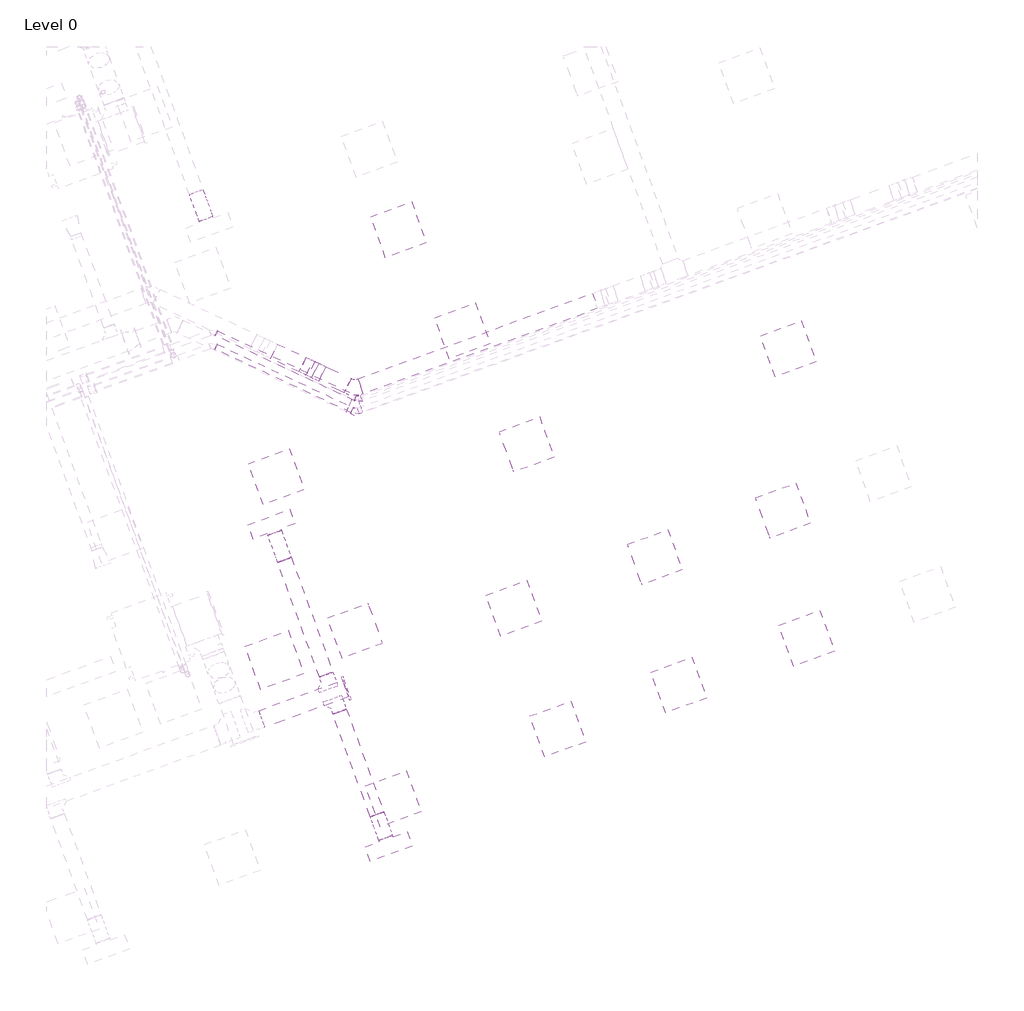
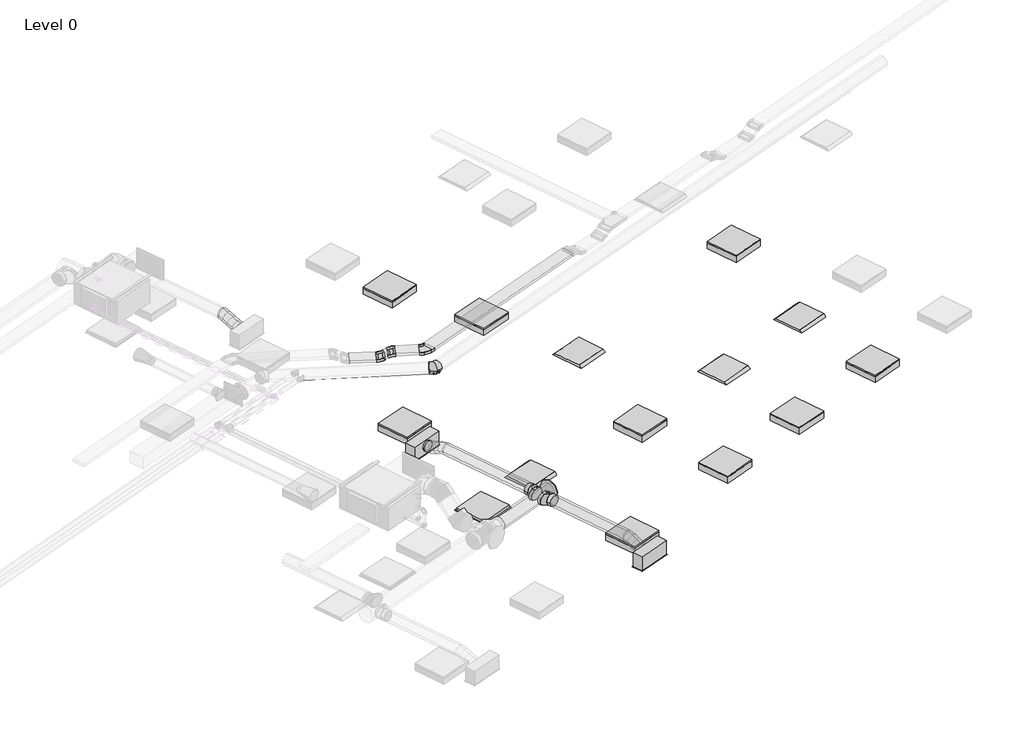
# One storey, part 27 of 34: 13 light fixtures, 6 duct segments, 4 cable carrier segments, 4 duct fittings, 3 air terminals, 3 cable carrier fittings, 2 pipe fittings, 2 pipe segments.
"""IFC4 building model written with IfcOpenShell, lengths in millimetres."""

from ifc_helpers import new_model, si_unit, point, frame, frame_2d, origin, place, context, project, spatial, polyline, circle_curve, ellipse_curve, trimmed, segment, composite_curve, outline, extrude, transform, mapped, element, save
from ifc_brep_helpers import plane_surface, cylinder_surface, advanced_brep
from components import return_grille_rectangular_hosted_standard_7b12617c, supply_diffuser_with_plenum_linear_slot_hosted_7a86b773, cable_tray_horizontal_bend_standard_ea848225, cable_tray_vertical_inside_bend_standard_9a66f55b, cable_tray_vertical_outside_bend_standard_4df2047e, dw144_round_blank_end_standard_9aa061e7, dw144_round_segmented_bend_slip_joint_standard_55afcd91, dw144_round_shoe_branch_slip_joint1_standard_2_559552f4, light_fixture_b730b5ca, troffer_light_2x2_parabolic_2_x2_2_lamp_120v_6a063ff3, elbow_threaded_gmi_standard_9261818c

model = new_model("IFC4")

# Units and contexts
model_context = context("Model", 3, world=origin())
ifc_project = project(units=[si_unit("LENGTHUNIT", "METRE", prefix="MILLI")], contexts=[model_context])

# Site, building, storey
site = spatial("IfcSite", under=ifc_project)
building = spatial("IfcBuilding", under=site)
storey = spatial("IfcBuildingStorey", under=building, Name="Level 0", Elevation=0.0)

# Air terminals
placement = place(None, origin())
return_grille_rectangular_hosted_standard_shape = return_grille_rectangular_hosted_standard_7b12617c(model_context)
element("IfcAirTerminal", 1, ObjectType="Return Grille - Rectangular - Hosted : Standard", at=placement, inside=storey, context=model_context, shape_type="MappedRepresentation", body=[
    mapped(return_grille_rectangular_hosted_standard_shape, transform((48062.9940494, 9235.5167351, 2800.0), x_axis=(0.939692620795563, 0.34202014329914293, 0.0), y_axis=(0.34202014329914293, -0.939692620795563, 0.0), z_axis=(0.0, 0.0, -1.0))),
])
supply_diffuser_with_plenum_linear_slot_hosted_shape = supply_diffuser_with_plenum_linear_slot_hosted_7a86b773(model_context)
element("IfcAirTerminal", 2, ObjectType="Supply Diffuser with Plenum - Linear Slot - Hosted : 24\" x 8\"-200 In Inlet  4-Slot", at=placement, inside=storey, context=model_context, shape_type="MappedRepresentation", body=[
    mapped(supply_diffuser_with_plenum_linear_slot_hosted_shape, transform((49663.8644548, 6625.652594, 2800.0), x_axis=(-0.9396926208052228, -0.34202014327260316, 0.0), y_axis=(-0.34202014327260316, 0.9396926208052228, 0.0), z_axis=(0.0, 0.0, -1.0))),
])
element("IfcAirTerminal", 3, ObjectType="Supply Diffuser with Plenum - Linear Slot - Hosted : 24\" x 8\"-200 In Inlet  4-Slot", at=placement, inside=storey, context=model_context, shape_type="MappedRepresentation", body=[
    mapped(supply_diffuser_with_plenum_linear_slot_hosted_shape, transform((48022.1677671, 11136.1771739, 2800.0), x_axis=(0.939692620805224, 0.34202014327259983, 0.0), y_axis=(0.34202014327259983, -0.939692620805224, 0.0), z_axis=(0.0, 0.0, -1.0))),
])

# Cable carrier fittings
cable_tray_horizontal_bend_standard_shape = cable_tray_horizontal_bend_standard_ea848225(model_context)
element("IfcCableCarrierFitting", 4, ObjectType="Cable Tray Horizontal Bend : Standard", at=placement, inside=storey, context=model_context, shape_type="MappedRepresentation", body=[
    mapped(cable_tray_horizontal_bend_standard_shape, transform((49178.5883036, 13033.9843438, 3248.9627355), x_axis=(0.9063077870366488, -0.422618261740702, 0.0), y_axis=(0.422618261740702, 0.9063077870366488, 0.0), z_axis=(0.0, 0.0, 1.0))),
])
cable_tray_vertical_inside_bend_standard_shape = cable_tray_vertical_inside_bend_standard_9a66f55b(model_context)
element("IfcCableCarrierFitting", 5, ObjectType="Cable Tray Vertical Inside Bend : Standard", at=placement, inside=storey, context=model_context, shape_type="MappedRepresentation", body=[
    mapped(cable_tray_vertical_inside_bend_standard_shape, transform((48516.9257607, 13342.5226547, 3148.9627355), x_axis=(0.9063077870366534, -0.42261826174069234, 0.0), y_axis=(0.0, 0.0, 1.0000000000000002), z_axis=(-0.42261826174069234, -0.9063077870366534, 0.0))),
])
cable_tray_vertical_outside_bend_standard_shape = cable_tray_vertical_outside_bend_standard_4df2047e(model_context)
element("IfcCableCarrierFitting", 6, ObjectType="Cable Tray Vertical Outside Bend : Standard", at=placement, inside=storey, context=model_context, shape_type="MappedRepresentation", body=[
    mapped(cable_tray_vertical_outside_bend_standard_shape, transform((48673.9028741, 13269.3230245, 3248.9627355), x_axis=(-0.9063077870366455, 0.42261826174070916, 0.0), y_axis=(0.0, 0.0, -1.0), z_axis=(-0.42261826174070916, -0.9063077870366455, 0.0))),
])

# Cable carrier segments
element("IfcCableCarrierSegment", 7, ObjectType="Perforated Cable Tray", at=placement, inside=storey, context=model_context, shape_type="SweptSolid", body=[
    extrude(outline(polyline([(48687.0694296, 13139.053343), (48782.1585385, 13342.9725951), (49136.974176, 13177.519346), (49041.8850671, 12973.600094), (48687.0694296, 13139.053343)])), frame((0.0, 0.0, 3223.9627355), z_axis=(0.0, 0.0, 1.0), x_axis=(1.0, 0.0, 0.0)), (0.0, 0.0, 1.0), 50.0),
])
element("IfcCableCarrierSegment", 8, ObjectType="Perforated Cable Tray", at=placement, inside=storey, context=model_context, shape_type="SweptSolid", body=[
    extrude(outline(polyline([(48010.1156409, 13454.7220789), (48105.2047498, 13658.6413309), (48503.7592052, 13472.7923362), (48408.6700963, 13268.8730841), (48010.1156409, 13454.7220789)])), frame((0.0, 0.0, 3123.9627355), z_axis=(0.0, 0.0, 1.0), x_axis=(1.0, 0.0, 0.0)), (0.0, 0.0, 1.0), 50.0),
])
element("IfcCableCarrierSegment", 9, ObjectType="Perforated Cable Tray", at=placement, inside=storey, context=model_context, shape_type="SweptSolid", body=[
    extrude(outline(polyline([(0.0, -225.0), (0.0, 0.0), (66.0254038, 0.0), (66.0254038, -225.0), (0.0, -225.0)])), frame((48585.1098035, 13186.5978974, 3193.8184513), z_axis=(-0.4531538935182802, 0.21130913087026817, 0.8660254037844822), x_axis=(-0.7848855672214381, 0.3659981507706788, -0.49999999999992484)), (0.0, 0.0, 1.0), 50.0),
])
element("IfcCableCarrierSegment", 10, ObjectType="Perforated Cable Tray", at=placement, inside=storey, context=model_context, shape_type="SweptSolid", body=[
    extrude(outline(polyline([(49309.5085089, 12961.9154021), (49232.5539766, 13173.3462418), (52512.3328011, 14367.0881089), (52589.2873334, 14155.6572692), (49309.5085089, 12961.9154021)])), frame((0.0, 0.0, 3223.9627355), z_axis=(0.0, 0.0, 1.0), x_axis=(1.0, 0.0, 0.0)), (0.0, 0.0, 1.0), 50.0),
])

# Duct fittings
dw144_round_blank_end_standard_shape = dw144_round_blank_end_standard_9aa061e7(model_context)
element("IfcDuctFitting", 11, ObjectType="DW144 Round Blank End : Standard", at=placement, inside=storey, context=model_context, shape_type="MappedRepresentation", body=[
    mapped(dw144_round_blank_end_standard_shape, transform((49058.6014923, 8836.976268, 3072.2088531), x_axis=(0.9396926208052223, 0.3420201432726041, 0.0), y_axis=(-0.3420201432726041, 0.9396926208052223, 0.0), z_axis=(0.0, 0.0, 1.0))),
])
dw144_round_segmented_bend_slip_joint_standard_shape = dw144_round_segmented_bend_slip_joint_standard_55afcd91(model_context)
element("IfcDuctFitting", 12, ObjectType="DW144 Round Segmented Bend - Slip Joint : Standard", at=placement, inside=storey, context=model_context, shape_type="MappedRepresentation", body=[
    mapped(dw144_round_segmented_bend_slip_joint_standard_shape, transform((49186.9042916, 12762.9479037, 3050.0), x_axis=(0.9063077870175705, -0.42261826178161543, 0.0), y_axis=(0.42261826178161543, 0.9063077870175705, 0.0), z_axis=(0.0, 0.0, 1.0))),
])
dw144_round_shoe_branch_slip_joint1_standard_2_shape = dw144_round_shoe_branch_slip_joint1_standard_2_559552f4(model_context)
element("IfcDuctFitting", 13, ObjectType="DW144 Round Shoe Branch - Slip Joint1 : Standard 2", at=placement, inside=storey, context=model_context, shape_type="MappedRepresentation", body=[
    mapped(dw144_round_shoe_branch_slip_joint1_standard_2_shape, transform((48925.1089268, 8655.3667261, 3072.2088531), x_axis=(0.34202014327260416, -0.9396926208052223, 0.0), y_axis=(-0.9396926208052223, -0.34202014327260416, 0.0), z_axis=(0.0, 0.0, -1.0))),
])
element("IfcDuctFitting", 14, ObjectType="DW144 Round Shoe Branch - Slip Joint1 : Standard 2", at=placement, inside=storey, context=model_context, shape_type="MappedRepresentation", body=[
    mapped(dw144_round_shoe_branch_slip_joint1_standard_2_shape, transform((48839.603891, 8890.2898813, 3072.2088531), x_axis=(-0.34202014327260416, 0.9396926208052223, 0.0), y_axis=(-0.9396926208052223, -0.34202014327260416, 0.0), z_axis=(0.0, 0.0, 1.0))),
])

# Duct segments
element("IfcDuctSegment", 15, ObjectType="DW144 Segmented Bend / Shoe Branch", at=placement, inside=storey, context=model_context, shape_type="SweptSolid", body=[
    extrude(outline(composite_curve([segment(trimmed(circle_curve(frame_2d((0.0, 125.0)), 125.0), [point((125.0, 125.0))], [point((0.0, 0.0))], False, "CARTESIAN"), True, "CONTINUOUS"), segment(trimmed(circle_curve(frame_2d((0.0, 125.0)), 125.0), [point((0.0, 0.0))], [point((-125.0, 125.0))], False, "CARTESIAN"), True, "CONTINUOUS"), segment(trimmed(circle_curve(frame_2d((0.0, 125.0)), 125.0), [point((-125.0, 125.0))], [point((0.0, 250.0))], False, "CARTESIAN"), True, "CONTINUOUS"), segment(trimmed(circle_curve(frame_2d((0.0, 125.0)), 125.0), [point((0.0, 250.0))], [point((125.0, 125.0))], False, "CARTESIAN"), True, "CONTINUOUS")], self_intersect=False)), frame((47888.1158529, 8410.9543357, 3197.2088531), z_axis=(0.9396926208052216, 0.34202014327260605, 0.0), x_axis=(0.34202014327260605, -0.9396926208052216, 0.0)), (0.0, 0.0, 1.0), 1245.6048004),
])
element("IfcDuctSegment", 16, ObjectType="DW144 Segmented Bend / Shoe Branch", at=placement, inside=storey, context=model_context, shape_type="SweptSolid", body=[
    extrude(outline(composite_curve([segment(trimmed(circle_curve(frame_2d((0.0, -100.0)), 100.0), [point((-100.0, -100.0))], [point((0.0, 0.0))], False, "CARTESIAN"), True, "CONTINUOUS"), segment(trimmed(circle_curve(frame_2d((0.0, -100.0)), 100.0), [point((0.0, 0.0))], [point((99.9999999, -100.0))], False, "CARTESIAN"), True, "CONTINUOUS"), segment(trimmed(circle_curve(frame_2d((0.0, -100.0)), 100.0), [point((99.9999999, -100.0))], [point((0.0, -200.0))], False, "CARTESIAN"), True, "CONTINUOUS"), segment(trimmed(circle_curve(frame_2d((0.0, -100.0)), 100.0), [point((0.0, -200.0))], [point((-100.0, -100.0))], False, "CARTESIAN"), True, "CONTINUOUS")], self_intersect=False)), frame((49500.2755983, 7075.1092836, 2972.2088531), z_axis=(-0.3420201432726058, 0.9396926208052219, 0.0), x_axis=(0.9396926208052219, 0.3420201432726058, 0.0)), (0.0, 0.0, 1.0), 1531.674845),
])
element("IfcDuctSegment", 17, ObjectType="DW144 Segmented Bend / Shoe Branch", at=placement, inside=storey, context=model_context, shape_type="SweptSolid", body=[
    extrude(outline(composite_curve([segment(trimmed(circle_curve(frame_2d((0.0, 100.0)), 100.0), [point((100.0, 100.0))], [point((0.0, 0.0))], False, "CARTESIAN"), True, "CONTINUOUS"), segment(trimmed(circle_curve(frame_2d((0.0, 100.0)), 100.0), [point((0.0, 0.0))], [point((-100.0, 100.0))], False, "CARTESIAN"), True, "CONTINUOUS"), segment(trimmed(circle_curve(frame_2d((0.0, 100.0)), 100.0), [point((-100.0, 100.0))], [point((0.0, 200.0))], False, "CARTESIAN"), True, "CONTINUOUS"), segment(trimmed(circle_curve(frame_2d((0.0, 100.0)), 100.0), [point((0.0, 200.0))], [point((100.0, 100.0))], False, "CARTESIAN"), True, "CONTINUOUS")], self_intersect=False)), frame((48788.3008695, 9031.2437744, 3172.2088531), z_axis=(-0.34202014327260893, 0.9396926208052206, 0.0), x_axis=(0.9396926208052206, 0.34202014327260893, 0.0)), (0.0, 0.0, 1.0), 1708.325155),
])
element("IfcDuctSegment", 18, ObjectType="Flex - Round", at=placement, inside=storey, context=model_context, shape_type="AdvancedBrep", body=[
    advanced_brep(
    [(47061.6165117, 15821.9331388, 3072.2088531), (46967.6472496, 15787.7311245, 2972.2088531), (46873.6779876, 15753.5291101, 3072.2088531), (46967.6472496, 15787.7311245, 3172.2088531), (47067.647805, 15805.3622967, 3072.2088531), (46970.0224122, 15781.2054191, 2972.2088531), (46879.7092808, 15736.958268, 3072.2088531), (46977.3346737, 15761.1151457, 3172.2088531), (47200.0314417, 15441.6412443, 2954.4), (47106.0621796, 15407.4392299, 3054.4), (47012.0929175, 15373.2372156, 2954.4), (47106.0621796, 15407.4392299, 2854.4), (47096.7588813, 15725.3802719, 3053.8012198), (46992.657883, 15719.014974, 2957.8959008), (46908.8203572, 15656.9762432, 3053.8012198), (47012.9213554, 15663.3415411, 3149.7065388), (47130.8239767, 15631.7871915, 3013.3044266), (47023.9724625, 15632.9788739, 2920.6689376), (46942.8854525, 15563.3831629, 3013.3044266), (47049.7369667, 15562.1914805, 3105.9399155), (47164.8890721, 15538.1941112, 2972.8076333), (47060.7880738, 15531.8288133, 2876.9023143), (46976.9505479, 15469.7900825, 2972.8076333), (47081.0515462, 15476.1553804, 3068.7129523), (47194.0001484, 15458.2120864, 2954.4), (47096.3747556, 15434.0552087, 2854.4), (47006.0616242, 15389.8080577, 2954.4), (47103.6870171, 15413.9649353, 3054.4)],
    [
        (0, 1, circle_curve(frame((46967.6472496, 15787.7311245, 3072.2088531), z_axis=(-0.3420201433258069, 0.9396926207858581, 0.0), x_axis=(0.9396926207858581, 0.3420201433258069, 0.0)), 100.0)),
        (1, 2, circle_curve(frame((46967.6472496, 15787.7311245, 3072.2088531), z_axis=(-0.3420201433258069, 0.9396926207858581, 0.0), x_axis=(0.9396926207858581, 0.3420201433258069, 0.0)), 100.0)),
        (2, 3, circle_curve(frame((46967.6472496, 15787.7311245, 3072.2088531), z_axis=(-0.3420201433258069, 0.9396926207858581, 0.0), x_axis=(0.9396926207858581, 0.3420201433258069, 0.0)), 100.0)),
        (3, 0, circle_curve(frame((46967.6472496, 15787.7311245, 3072.2088531), z_axis=(-0.3420201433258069, 0.9396926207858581, 0.0), x_axis=(0.9396926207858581, 0.3420201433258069, 0.0)), 100.0)),
        (0, 4),
        (4, 5, ellipse_curve(frame((46973.6785429, 15771.1602824, 3072.2088531), z_axis=(-0.3400825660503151, 0.934369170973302, 0.10629252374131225), x_axis=(-0.03635418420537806, 0.09988230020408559, -0.9943349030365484)), 100.5697373, 100.0)),
        (5, 1),
        (5, 6, ellipse_curve(frame((46973.6785429, 15771.1602824, 3072.2088531), z_axis=(-0.3400825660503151, 0.934369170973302, 0.10629252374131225), x_axis=(-0.03635418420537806, 0.09988230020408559, -0.9943349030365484)), 100.5697373, 100.0)),
        (6, 2),
        (6, 7, ellipse_curve(frame((46973.6785429, 15771.1602824, 3072.2088531), z_axis=(-0.3400825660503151, 0.934369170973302, 0.10629252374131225), x_axis=(-0.03635418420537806, 0.09988230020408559, -0.9943349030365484)), 100.5697373, 100.0)),
        (7, 3),
        (7, 4, ellipse_curve(frame((46973.6785429, 15771.1602824, 3072.2088531), z_axis=(-0.3400825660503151, 0.934369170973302, 0.10629252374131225), x_axis=(-0.03635418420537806, 0.09988230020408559, -0.9943349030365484)), 100.5697373, 100.0)),
        (8, 9, circle_curve(frame((47106.0621796, 15407.4392299, 2954.4), z_axis=(0.3420201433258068, -0.9396926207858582, 0.0), x_axis=(0.9396926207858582, 0.3420201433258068, 0.0)), 100.0)),
        (9, 10, circle_curve(frame((47106.0621796, 15407.4392299, 2954.4), z_axis=(0.3420201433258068, -0.9396926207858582, 0.0), x_axis=(0.9396926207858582, 0.3420201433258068, 0.0)), 100.0)),
        (10, 11, circle_curve(frame((47106.0621796, 15407.4392299, 2954.4), z_axis=(0.3420201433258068, -0.9396926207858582, 0.0), x_axis=(0.9396926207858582, 0.3420201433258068, 0.0)), 100.0)),
        (11, 8, circle_curve(frame((47106.0621796, 15407.4392299, 2954.4), z_axis=(0.3420201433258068, -0.9396926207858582, 0.0), x_axis=(0.9396926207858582, 0.3420201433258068, 0.0)), 100.0)),
        (4, 12),
        (12, 13, ellipse_curve(frame((47002.7896192, 15691.1782575, 3053.8012198), z_axis=(-0.32678640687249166, 0.8978382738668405, 0.2951221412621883), x_axis=(-0.10093771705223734, 0.2773240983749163, -0.9554595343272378)), 100.3761181, 100.0)),
        (13, 5),
        (13, 14, ellipse_curve(frame((47002.7896192, 15691.1782575, 3053.8012198), z_axis=(-0.32678640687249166, 0.8978382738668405, 0.2951221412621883), x_axis=(-0.10093771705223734, 0.2773240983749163, -0.9554595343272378)), 100.3761181, 100.0)),
        (14, 6),
        (14, 15, ellipse_curve(frame((47002.7896192, 15691.1782575, 3053.8012198), z_axis=(-0.32678640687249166, 0.8978382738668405, 0.2951221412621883), x_axis=(-0.10093771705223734, 0.2773240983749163, -0.9554595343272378)), 100.3761181, 100.0)),
        (15, 7),
        (15, 12, ellipse_curve(frame((47002.7896192, 15691.1782575, 3053.8012198), z_axis=(-0.32678640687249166, 0.8978382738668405, 0.2951221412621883), x_axis=(-0.10093771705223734, 0.2773240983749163, -0.9554595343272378)), 100.3761181, 100.0)),
        (12, 16),
        (16, 17, circle_curve(frame((47036.8547146, 15597.5851772, 3013.3044266), z_axis=(-0.31683203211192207, 0.870488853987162, 0.3766518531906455), x_axis=(0.9396926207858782, 0.3420201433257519, 0.0)), 100.0)),
        (17, 13),
        (17, 18, circle_curve(frame((47036.8547146, 15597.5851772, 3013.3044266), z_axis=(-0.31683203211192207, 0.870488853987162, 0.3766518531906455), x_axis=(0.9396926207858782, 0.3420201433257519, 0.0)), 100.0)),
        (18, 14),
        (18, 19, circle_curve(frame((47036.8547146, 15597.5851772, 3013.3044266), z_axis=(-0.31683203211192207, 0.870488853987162, 0.3766518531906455), x_axis=(0.9396926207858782, 0.3420201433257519, 0.0)), 100.0)),
        (19, 15),
        (19, 16, circle_curve(frame((47036.8547146, 15597.5851772, 3013.3044266), z_axis=(-0.31683203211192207, 0.870488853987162, 0.3766518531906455), x_axis=(0.9396926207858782, 0.3420201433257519, 0.0)), 100.0)),
        (16, 20),
        (20, 21, ellipse_curve(frame((47070.91981, 15503.9920969, 2972.8076333), z_axis=(-0.3267864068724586, 0.8978382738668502, 0.2951221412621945), x_axis=(0.10093771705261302, -0.2773240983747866, 0.9554595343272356)), 100.3761181, 100.0)),
        (21, 17),
        (21, 22, ellipse_curve(frame((47070.91981, 15503.9920969, 2972.8076333), z_axis=(-0.3267864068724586, 0.8978382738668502, 0.2951221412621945), x_axis=(0.10093771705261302, -0.2773240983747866, 0.9554595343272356)), 100.3761181, 100.0)),
        (22, 18),
        (22, 23, ellipse_curve(frame((47070.91981, 15503.9920969, 2972.8076333), z_axis=(-0.3267864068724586, 0.8978382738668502, 0.2951221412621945), x_axis=(0.10093771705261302, -0.2773240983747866, 0.9554595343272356)), 100.3761181, 100.0)),
        (23, 19),
        (23, 20, ellipse_curve(frame((47070.91981, 15503.9920969, 2972.8076333), z_axis=(-0.3267864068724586, 0.8978382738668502, 0.2951221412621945), x_axis=(0.10093771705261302, -0.2773240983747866, 0.9554595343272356)), 100.3761181, 100.0)),
        (20, 24),
        (24, 25, ellipse_curve(frame((47100.0308863, 15424.010072, 2954.4), z_axis=(-0.34008256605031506, 0.934369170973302, 0.10629252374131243), x_axis=(0.03635418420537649, -0.09988230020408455, 0.9943349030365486)), 100.5697373, 100.0)),
        (25, 21),
        (25, 26, ellipse_curve(frame((47100.0308863, 15424.010072, 2954.4), z_axis=(-0.34008256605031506, 0.934369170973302, 0.10629252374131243), x_axis=(0.03635418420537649, -0.09988230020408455, 0.9943349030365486)), 100.5697373, 100.0)),
        (26, 22),
        (26, 27, ellipse_curve(frame((47100.0308863, 15424.010072, 2954.4), z_axis=(-0.34008256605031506, 0.934369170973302, 0.10629252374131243), x_axis=(0.03635418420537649, -0.09988230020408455, 0.9943349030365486)), 100.5697373, 100.0)),
        (27, 23),
        (27, 24, ellipse_curve(frame((47100.0308863, 15424.010072, 2954.4), z_axis=(-0.34008256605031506, 0.934369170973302, 0.10629252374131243), x_axis=(0.03635418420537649, -0.09988230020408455, 0.9943349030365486)), 100.5697373, 100.0)),
        (24, 8),
        (11, 25),
        (10, 26),
        (9, 27),
    ],
    [
        plane_surface(frame((46967.6472496, 15787.7311245, 2972.2088531), z_axis=(-0.34202014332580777, 0.9396926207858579, 0.0), x_axis=(0.9396926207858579, 0.34202014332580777, 0.0))),
        cylinder_surface(frame((46967.6472496, 15787.7311245, 3072.2088531), z_axis=(-0.3420201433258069, 0.9396926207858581, 0.0), x_axis=(0.9396926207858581, 0.3420201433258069, 0.0)), 100.0),
        plane_surface(frame((47106.0621796, 15407.4392299, 2854.4), z_axis=(0.34202014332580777, -0.9396926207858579, 0.0), x_axis=(0.9396926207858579, 0.34202014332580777, 0.0))),
        cylinder_surface(frame((46973.6785429, 15771.1602824, 3072.2088531), z_axis=(-0.3342917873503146, 0.9184591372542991, 0.21138073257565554), x_axis=(0.9396926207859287, 0.3420201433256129, 0.0)), 100.0),
        cylinder_surface(frame((47002.7896192, 15691.1782575, 3053.8012198), z_axis=(-0.31683203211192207, 0.870488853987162, 0.3766518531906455), x_axis=(0.9396926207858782, 0.3420201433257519, 0.0)), 100.0),
        cylinder_surface(frame((47036.8547146, 15597.5851772, 3013.3044266), z_axis=(-0.3168320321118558, 0.8704888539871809, 0.3766518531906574), x_axis=(0.9396926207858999, 0.342020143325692, 0.0)), 100.0),
        cylinder_surface(frame((47070.91981, 15503.9920969, 2972.8076333), z_axis=(-0.3342917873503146, 0.918459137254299, 0.2113807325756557), x_axis=(0.9396926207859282, 0.34202014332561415, 0.0)), 100.0),
        cylinder_surface(frame((47100.0308863, 15424.010072, 2954.4), z_axis=(-0.3420201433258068, 0.9396926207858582, 0.0), x_axis=(0.9396926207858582, 0.3420201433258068, 0.0)), 100.0),
    ],
    [
        (0, [[1, 2, 3, 4]]),
        (1, [[-1, 5, 6, 7]]),
        (1, [[-2, -7, 8, 9]]),
        (1, [[-3, -9, 10, 11]]),
        (1, [[-4, -11, 12, -5]]),
        (2, [[13, 14, 15, 16]]),
        (3, [[-6, 17, 18, 19]]),
        (3, [[-8, -19, 20, 21]]),
        (3, [[-10, -21, 22, 23]]),
        (3, [[-12, -23, 24, -17]]),
        (4, [[-18, 25, 26, 27]]),
        (4, [[-20, -27, 28, 29]]),
        (4, [[-22, -29, 30, 31]]),
        (4, [[-24, -31, 32, -25]]),
        (5, [[-26, 33, 34, 35]]),
        (5, [[-28, -35, 36, 37]]),
        (5, [[-30, -37, 38, 39]]),
        (5, [[-32, -39, 40, -33]]),
        (6, [[-34, 41, 42, 43]]),
        (6, [[-36, -43, 44, 45]]),
        (6, [[-38, -45, 46, 47]]),
        (6, [[-40, -47, 48, -41]]),
        (7, [[-42, 49, -16, 50]]),
        (7, [[-44, -50, -15, 51]]),
        (7, [[-46, -51, -14, 52]]),
        (7, [[-48, -52, -13, -49]]),
    ],
),
])
element("IfcDuctSegment", 19, ObjectType="Flex - Round", at=placement, inside=storey, context=model_context, shape_type="AdvancedBrep", body=[
    advanced_brep(
    [(49594.2448603, 7109.3112979, 3072.2088531), (49500.2755983, 7075.1092836, 2972.2088531), (49406.3063362, 7040.9072693, 3072.2088531), (49500.2755983, 7075.1092836, 3172.2088531), (49601.1255889, 7090.4066517, 3072.2088531), (49502.7043776, 7068.4362673, 2972.2088531), (49413.1870647, 7022.002623, 3072.2088531), (49511.608276, 7043.9730074, 3172.2088531), (49714.3971587, 6779.1955712, 2954.4), (49620.4278967, 6744.9935568, 3054.4), (49526.4586346, 6710.7915425, 2954.4), (49620.4278967, 6744.9935568, 2854.4), (49624.8994494, 7025.0885067, 3053.8012198), (49519.1724256, 7023.1906771, 2959.4579669), (49436.9609252, 6956.684478, 3053.8012198), (49542.687949, 6958.5823076, 3148.1444727), (49654.3210095, 6944.2534345, 3013.3044266), (49545.7840857, 6950.075742, 2922.8288116), (49466.3824854, 6875.8494059, 3013.3044266), (49574.9194092, 6870.0270985, 3103.7800415), (49683.7425697, 6863.4183624, 2972.8076333), (49578.0155459, 6861.5205329, 2878.4643804), (49495.8040455, 6795.0143338, 2972.8076333), (49601.5310693, 6796.9121633, 3067.1508862), (49707.5164302, 6798.1002174, 2954.4), (49609.0952189, 6776.129833, 2854.4), (49519.5779061, 6729.6961887, 2954.4), (49617.9991173, 6751.6665731, 3054.4)],
    [
        (0, 1, circle_curve(frame((49500.2755983, 7075.1092836, 3072.2088531), z_axis=(-0.34202014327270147, 0.9396926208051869, 0.0), x_axis=(0.9396926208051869, 0.34202014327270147, 0.0)), 100.0)),
        (1, 2, circle_curve(frame((49500.2755983, 7075.1092836, 3072.2088531), z_axis=(-0.34202014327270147, 0.9396926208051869, 0.0), x_axis=(0.9396926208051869, 0.34202014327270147, 0.0)), 100.0)),
        (2, 3, circle_curve(frame((49500.2755983, 7075.1092836, 3072.2088531), z_axis=(-0.34202014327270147, 0.9396926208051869, 0.0), x_axis=(0.9396926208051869, 0.34202014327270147, 0.0)), 100.0)),
        (3, 0, circle_curve(frame((49500.2755983, 7075.1092836, 3072.2088531), z_axis=(-0.34202014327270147, 0.9396926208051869, 0.0), x_axis=(0.9396926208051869, 0.34202014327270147, 0.0)), 100.0)),
        (0, 4),
        (4, 5, ellipse_curve(frame((49507.1563268, 7056.2046374, 3072.2088531), z_axis=(-0.3391589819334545, 0.9318316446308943, 0.12907738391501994), x_axis=(-0.04414706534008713, 0.12129306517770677, -0.9916345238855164)), 100.8436048, 100.0)),
        (5, 1),
        (5, 6, ellipse_curve(frame((49507.1563268, 7056.2046374, 3072.2088531), z_axis=(-0.3391589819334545, 0.9318316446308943, 0.12907738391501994), x_axis=(-0.04414706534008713, 0.12129306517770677, -0.9916345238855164)), 100.8436048, 100.0)),
        (6, 2),
        (6, 7, ellipse_curve(frame((49507.1563268, 7056.2046374, 3072.2088531), z_axis=(-0.3391589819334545, 0.9318316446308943, 0.12907738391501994), x_axis=(-0.04414706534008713, 0.12129306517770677, -0.9916345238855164)), 100.8436048, 100.0)),
        (7, 3),
        (7, 4, ellipse_curve(frame((49507.1563268, 7056.2046374, 3072.2088531), z_axis=(-0.3391589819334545, 0.9318316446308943, 0.12907738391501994), x_axis=(-0.04414706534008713, 0.12129306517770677, -0.9916345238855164)), 100.8436048, 100.0)),
        (8, 9, circle_curve(frame((49620.4278967, 6744.9935568, 2954.4), z_axis=(0.34202014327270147, -0.939692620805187, 0.0), x_axis=(0.939692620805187, 0.34202014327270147, 0.0)), 100.0)),
        (9, 10, circle_curve(frame((49620.4278967, 6744.9935568, 2954.4), z_axis=(0.34202014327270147, -0.939692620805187, 0.0), x_axis=(0.939692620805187, 0.34202014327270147, 0.0)), 100.0)),
        (10, 11, circle_curve(frame((49620.4278967, 6744.9935568, 2954.4), z_axis=(0.34202014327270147, -0.939692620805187, 0.0), x_axis=(0.939692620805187, 0.34202014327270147, 0.0)), 100.0)),
        (11, 8, circle_curve(frame((49620.4278967, 6744.9935568, 2954.4), z_axis=(0.34202014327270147, -0.939692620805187, 0.0), x_axis=(0.939692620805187, 0.34202014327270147, 0.0)), 100.0)),
        (4, 12),
        (12, 13, ellipse_curve(frame((49530.9301873, 6990.8864923, 3053.8012198), z_axis=(-0.32135080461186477, 0.8829040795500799, 0.3423653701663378), x_axis=(-0.11709585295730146, 0.3217182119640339, -0.9395668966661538)), 100.411427, 100.0)),
        (13, 5),
        (13, 14, ellipse_curve(frame((49530.9301873, 6990.8864923, 3053.8012198), z_axis=(-0.32135080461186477, 0.8829040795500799, 0.3423653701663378), x_axis=(-0.11709585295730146, 0.3217182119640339, -0.9395668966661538)), 100.411427, 100.0)),
        (14, 6),
        (14, 15, ellipse_curve(frame((49530.9301873, 6990.8864923, 3053.8012198), z_axis=(-0.32135080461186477, 0.8829040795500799, 0.3423653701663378), x_axis=(-0.11709585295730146, 0.3217182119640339, -0.9395668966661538)), 100.411427, 100.0)),
        (15, 7),
        (15, 12, ellipse_curve(frame((49530.9301873, 6990.8864923, 3053.8012198), z_axis=(-0.32135080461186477, 0.8829040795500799, 0.3423653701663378), x_axis=(-0.11709585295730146, 0.3217182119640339, -0.9395668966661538)), 100.411427, 100.0)),
        (12, 16),
        (16, 17, circle_curve(frame((49560.3517475, 6910.0514202, 3013.3044266), z_axis=(-0.30944482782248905, 0.8501926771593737, 0.42592993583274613), x_axis=(0.939692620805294, 0.34202014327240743, 0.0)), 100.0)),
        (17, 13),
        (17, 18, circle_curve(frame((49560.3517475, 6910.0514202, 3013.3044266), z_axis=(-0.30944482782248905, 0.8501926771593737, 0.42592993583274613), x_axis=(0.939692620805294, 0.34202014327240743, 0.0)), 100.0)),
        (18, 14),
        (18, 19, circle_curve(frame((49560.3517475, 6910.0514202, 3013.3044266), z_axis=(-0.30944482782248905, 0.8501926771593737, 0.42592993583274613), x_axis=(0.939692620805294, 0.34202014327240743, 0.0)), 100.0)),
        (19, 15),
        (19, 16, circle_curve(frame((49560.3517475, 6910.0514202, 3013.3044266), z_axis=(-0.30944482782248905, 0.8501926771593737, 0.42592993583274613), x_axis=(0.939692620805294, 0.34202014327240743, 0.0)), 100.0)),
        (16, 20),
        (20, 21, ellipse_curve(frame((49589.7733076, 6829.2163481, 2972.8076333), z_axis=(-0.3213508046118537, 0.8829040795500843, 0.34236537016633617), x_axis=(0.11709585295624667, -0.32171821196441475, 0.9395668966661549)), 100.411427, 100.0)),
        (21, 17),
        (21, 22, ellipse_curve(frame((49589.7733076, 6829.2163481, 2972.8076333), z_axis=(-0.3213508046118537, 0.8829040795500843, 0.34236537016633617), x_axis=(0.11709585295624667, -0.32171821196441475, 0.9395668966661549)), 100.411427, 100.0)),
        (22, 18),
        (22, 23, ellipse_curve(frame((49589.7733076, 6829.2163481, 2972.8076333), z_axis=(-0.3213508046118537, 0.8829040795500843, 0.34236537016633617), x_axis=(0.11709585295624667, -0.32171821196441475, 0.9395668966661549)), 100.411427, 100.0)),
        (23, 19),
        (23, 20, ellipse_curve(frame((49589.7733076, 6829.2163481, 2972.8076333), z_axis=(-0.3213508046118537, 0.8829040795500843, 0.34236537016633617), x_axis=(0.11709585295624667, -0.32171821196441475, 0.9395668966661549)), 100.411427, 100.0)),
        (20, 24),
        (24, 25, ellipse_curve(frame((49613.5471681, 6763.8982031, 2954.4), z_axis=(-0.33915898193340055, 0.9318316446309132, 0.129077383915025), x_axis=(0.04414706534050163, -0.12129306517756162, 0.9916345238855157)), 100.8436048, 100.0)),
        (25, 21),
        (25, 26, ellipse_curve(frame((49613.5471681, 6763.8982031, 2954.4), z_axis=(-0.33915898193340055, 0.9318316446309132, 0.129077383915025), x_axis=(0.04414706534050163, -0.12129306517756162, 0.9916345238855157)), 100.8436048, 100.0)),
        (26, 22),
        (26, 27, ellipse_curve(frame((49613.5471681, 6763.8982031, 2954.4), z_axis=(-0.33915898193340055, 0.9318316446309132, 0.129077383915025), x_axis=(0.04414706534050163, -0.12129306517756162, 0.9916345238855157)), 100.8436048, 100.0)),
        (27, 23),
        (27, 24, ellipse_curve(frame((49613.5471681, 6763.8982031, 2954.4), z_axis=(-0.33915898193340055, 0.9318316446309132, 0.129077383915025), x_axis=(0.04414706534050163, -0.12129306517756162, 0.9916345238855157)), 100.8436048, 100.0)),
        (24, 8),
        (11, 25),
        (10, 26),
        (9, 27),
    ],
    [
        plane_surface(frame((49500.2755983, 7075.1092836, 2972.2088531), z_axis=(-0.34202014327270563, 0.9396926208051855, 0.0), x_axis=(0.9396926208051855, 0.34202014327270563, 0.0))),
        cylinder_surface(frame((49500.2755983, 7075.1092836, 3072.2088531), z_axis=(-0.34202014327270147, 0.9396926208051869, 0.0), x_axis=(0.9396926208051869, 0.34202014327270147, 0.0)), 100.0),
        plane_surface(frame((49620.4278967, 6744.9935568, 2854.4), z_axis=(0.34202014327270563, -0.9396926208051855, 0.0), x_axis=(0.9396926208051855, 0.34202014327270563, 0.0))),
        cylinder_surface(frame((49507.1563268, 7056.2046374, 3072.2088531), z_axis=(-0.33062336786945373, 0.9083802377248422, 0.25599518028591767), x_axis=(0.9396926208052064, 0.3420201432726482, 0.0)), 100.0),
        cylinder_surface(frame((49530.9301873, 6990.8864923, 3053.8012198), z_axis=(-0.30944482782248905, 0.8501926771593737, 0.42592993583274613), x_axis=(0.939692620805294, 0.34202014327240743, 0.0)), 100.0),
        cylinder_surface(frame((49560.3517475, 6910.0514202, 3013.3044266), z_axis=(-0.3094448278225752, 0.8501926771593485, 0.4259299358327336), x_axis=(0.9396926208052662, 0.34202014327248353, 0.0)), 100.0),
        cylinder_surface(frame((49589.7733076, 6829.2163481, 2972.8076333), z_axis=(-0.33062336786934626, 0.9083802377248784, 0.2559951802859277), x_axis=(0.9396926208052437, 0.3420201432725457, 0.0)), 100.0),
        cylinder_surface(frame((49613.5471681, 6763.8982031, 2954.4), z_axis=(-0.34202014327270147, 0.939692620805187, 0.0), x_axis=(0.939692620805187, 0.34202014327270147, 0.0)), 100.0),
    ],
    [
        (0, [[1, 2, 3, 4]]),
        (1, [[-1, 5, 6, 7]]),
        (1, [[-2, -7, 8, 9]]),
        (1, [[-3, -9, 10, 11]]),
        (1, [[-4, -11, 12, -5]]),
        (2, [[13, 14, 15, 16]]),
        (3, [[-6, 17, 18, 19]]),
        (3, [[-8, -19, 20, 21]]),
        (3, [[-10, -21, 22, 23]]),
        (3, [[-12, -23, 24, -17]]),
        (4, [[-18, 25, 26, 27]]),
        (4, [[-20, -27, 28, 29]]),
        (4, [[-22, -29, 30, 31]]),
        (4, [[-24, -31, 32, -25]]),
        (5, [[-26, 33, 34, 35]]),
        (5, [[-28, -35, 36, 37]]),
        (5, [[-30, -37, 38, 39]]),
        (5, [[-32, -39, 40, -33]]),
        (6, [[-34, 41, 42, 43]]),
        (6, [[-36, -43, 44, 45]]),
        (6, [[-38, -45, 46, 47]]),
        (6, [[-40, -47, 48, -41]]),
        (7, [[-42, 49, -16, 50]]),
        (7, [[-44, -50, -15, 51]]),
        (7, [[-46, -51, -14, 52]]),
        (7, [[-48, -52, -13, -49]]),
    ],
),
])
element("IfcDuctSegment", 20, ObjectType="Flex - Round", at=placement, inside=storey, context=model_context, shape_type="AdvancedBrep", body=[
    advanced_brep(
    [(48110.0499932, 10602.3423021, 3072.2088531), (48204.0192553, 10636.5443165, 2972.2088531), (48297.9885173, 10670.7463308, 3072.2088531), (48204.0192553, 10636.5443165, 3172.2088531), (48104.0186999, 10618.9131442, 3072.2088531), (48201.6440927, 10643.0700219, 2972.2088531), (48291.9572241, 10687.3171729, 3072.2088531), (48194.3318312, 10663.1602953, 3172.2088531), (47971.6350633, 10982.6341967, 2954.4), (48065.6043253, 11016.836211, 3054.4), (48159.5735874, 11051.0382253, 2954.4), (48065.6043253, 11016.836211, 2854.4), (48074.9076236, 10698.8951691, 3053.8012198), (48179.0086219, 10705.2604669, 2957.8959008), (48262.8461478, 10767.2991977, 3053.8012198), (48158.7451495, 10760.9338998, 3149.7065388), (48040.8425282, 10792.4882494, 3013.3044266), (48147.6940424, 10791.296567, 2920.6689376), (48228.7810524, 10860.8922781, 3013.3044266), (48121.9295382, 10862.0839604, 3105.9399155), (48006.7774328, 10886.0813298, 2972.8076333), (48110.8784311, 10892.4466276, 2876.9023143), (48194.715957, 10954.4853584, 2972.8076333), (48090.6149587, 10948.1200605, 3068.7129523), (47977.6663565, 10966.0633546, 2954.4), (48075.2917494, 10990.2202322, 2854.4), (48165.6048807, 11034.4673832, 2954.4), (48067.9794879, 11010.3105056, 3054.4)],
    [
        (0, 1, circle_curve(frame((48204.0192553, 10636.5443165, 3072.2088531), z_axis=(0.34202014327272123, -0.9396926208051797, 0.0), x_axis=(-0.9396926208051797, -0.34202014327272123, 0.0)), 100.0)),
        (1, 2, circle_curve(frame((48204.0192553, 10636.5443165, 3072.2088531), z_axis=(0.34202014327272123, -0.9396926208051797, 0.0), x_axis=(-0.9396926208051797, -0.34202014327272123, 0.0)), 100.0)),
        (2, 3, circle_curve(frame((48204.0192553, 10636.5443165, 3072.2088531), z_axis=(0.34202014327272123, -0.9396926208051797, 0.0), x_axis=(-0.9396926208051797, -0.34202014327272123, 0.0)), 100.0)),
        (3, 0, circle_curve(frame((48204.0192553, 10636.5443165, 3072.2088531), z_axis=(0.34202014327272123, -0.9396926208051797, 0.0), x_axis=(-0.9396926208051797, -0.34202014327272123, 0.0)), 100.0)),
        (0, 4),
        (4, 5, ellipse_curve(frame((48197.987962, 10653.1151586, 3072.2088531), z_axis=(0.34008256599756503, -0.9343691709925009, 0.10629252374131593), x_axis=(0.03635418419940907, -0.09988230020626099, -0.9943349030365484)), 100.5697373, 100.0)),
        (5, 1),
        (5, 6, ellipse_curve(frame((48197.987962, 10653.1151586, 3072.2088531), z_axis=(0.34008256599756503, -0.9343691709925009, 0.10629252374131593), x_axis=(0.03635418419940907, -0.09988230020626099, -0.9943349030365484)), 100.5697373, 100.0)),
        (6, 2),
        (6, 7, ellipse_curve(frame((48197.987962, 10653.1151586, 3072.2088531), z_axis=(0.34008256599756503, -0.9343691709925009, 0.10629252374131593), x_axis=(0.03635418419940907, -0.09988230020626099, -0.9943349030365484)), 100.5697373, 100.0)),
        (7, 3),
        (7, 4, ellipse_curve(frame((48197.987962, 10653.1151586, 3072.2088531), z_axis=(0.34008256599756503, -0.9343691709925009, 0.10629252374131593), x_axis=(0.03635418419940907, -0.09988230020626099, -0.9943349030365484)), 100.5697373, 100.0)),
        (8, 9, circle_curve(frame((48065.6043253, 11016.836211, 2954.4), z_axis=(-0.3420201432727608, 0.9396926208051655, 0.0), x_axis=(-0.9396926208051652, -0.34202014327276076, 0.0)), 100.0)),
        (9, 10, circle_curve(frame((48065.6043253, 11016.836211, 2954.4), z_axis=(-0.3420201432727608, 0.9396926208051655, 0.0), x_axis=(-0.9396926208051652, -0.34202014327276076, 0.0)), 100.0)),
        (10, 11, circle_curve(frame((48065.6043253, 11016.836211, 2954.4), z_axis=(-0.3420201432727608, 0.9396926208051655, 0.0), x_axis=(-0.9396926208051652, -0.34202014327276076, 0.0)), 100.0)),
        (11, 8, circle_curve(frame((48065.6043253, 11016.836211, 2954.4), z_axis=(-0.3420201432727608, 0.9396926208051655, 0.0), x_axis=(-0.9396926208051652, -0.34202014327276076, 0.0)), 100.0)),
        (4, 12),
        (12, 13, ellipse_curve(frame((48168.8768857, 10733.0971834, 3053.8012198), z_axis=(0.32678640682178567, -0.8978382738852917, 0.2951221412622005), x_axis=(0.10093771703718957, -0.27732409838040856, -0.9554595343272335)), 100.3761181, 100.0)),
        (13, 5),
        (13, 14, ellipse_curve(frame((48168.8768857, 10733.0971834, 3053.8012198), z_axis=(0.32678640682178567, -0.8978382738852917, 0.2951221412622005), x_axis=(0.10093771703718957, -0.27732409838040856, -0.9554595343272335)), 100.3761181, 100.0)),
        (14, 6),
        (14, 15, ellipse_curve(frame((48168.8768857, 10733.0971834, 3053.8012198), z_axis=(0.32678640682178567, -0.8978382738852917, 0.2951221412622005), x_axis=(0.10093771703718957, -0.27732409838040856, -0.9554595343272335)), 100.3761181, 100.0)),
        (15, 7),
        (15, 12, ellipse_curve(frame((48168.8768857, 10733.0971834, 3053.8012198), z_axis=(0.32678640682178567, -0.8978382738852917, 0.2951221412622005), x_axis=(0.10093771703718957, -0.27732409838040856, -0.9554595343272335)), 100.3761181, 100.0)),
        (12, 16),
        (16, 17, circle_curve(frame((48134.8117903, 10826.6902637, 3013.3044266), z_axis=(0.3168320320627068, -0.8704888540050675, 0.37665185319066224), x_axis=(-0.9396926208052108, -0.34202014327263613, 0.0)), 100.0)),
        (17, 13),
        (17, 18, circle_curve(frame((48134.8117903, 10826.6902637, 3013.3044266), z_axis=(0.3168320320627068, -0.8704888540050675, 0.37665185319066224), x_axis=(-0.9396926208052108, -0.34202014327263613, 0.0)), 100.0)),
        (18, 14),
        (18, 19, circle_curve(frame((48134.8117903, 10826.6902637, 3013.3044266), z_axis=(0.3168320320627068, -0.8704888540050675, 0.37665185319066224), x_axis=(-0.9396926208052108, -0.34202014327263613, 0.0)), 100.0)),
        (19, 15),
        (19, 16, circle_curve(frame((48134.8117903, 10826.6902637, 3013.3044266), z_axis=(0.3168320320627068, -0.8704888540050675, 0.37665185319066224), x_axis=(-0.9396926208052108, -0.34202014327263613, 0.0)), 100.0)),
        (16, 20),
        (20, 21, ellipse_curve(frame((48100.7466949, 10920.2833441, 2972.8076333), z_axis=(0.3267864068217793, -0.8978382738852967, 0.29512214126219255), x_axis=(-0.10093771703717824, 0.27732409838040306, 0.9554595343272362)), 100.3761181, 100.0)),
        (21, 17),
        (21, 22, ellipse_curve(frame((48100.7466949, 10920.2833441, 2972.8076333), z_axis=(0.3267864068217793, -0.8978382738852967, 0.29512214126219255), x_axis=(-0.10093771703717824, 0.27732409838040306, 0.9554595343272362)), 100.3761181, 100.0)),
        (22, 18),
        (22, 23, ellipse_curve(frame((48100.7466949, 10920.2833441, 2972.8076333), z_axis=(0.3267864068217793, -0.8978382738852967, 0.29512214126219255), x_axis=(-0.10093771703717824, 0.27732409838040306, 0.9554595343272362)), 100.3761181, 100.0)),
        (23, 19),
        (23, 20, ellipse_curve(frame((48100.7466949, 10920.2833441, 2972.8076333), z_axis=(0.3267864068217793, -0.8978382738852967, 0.29512214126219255), x_axis=(-0.10093771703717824, 0.27732409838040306, 0.9554595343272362)), 100.3761181, 100.0)),
        (20, 24),
        (24, 25, ellipse_curve(frame((48071.6356186, 11000.2653689, 2954.4), z_axis=(0.34008256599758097, -0.9343691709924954, 0.10629252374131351), x_axis=(-0.03635418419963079, 0.09988230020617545, 0.9943349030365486)), 100.5697373, 100.0)),
        (25, 21),
        (25, 26, ellipse_curve(frame((48071.6356186, 11000.2653689, 2954.4), z_axis=(0.34008256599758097, -0.9343691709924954, 0.10629252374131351), x_axis=(-0.03635418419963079, 0.09988230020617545, 0.9943349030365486)), 100.5697373, 100.0)),
        (26, 22),
        (26, 27, ellipse_curve(frame((48071.6356186, 11000.2653689, 2954.4), z_axis=(0.34008256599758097, -0.9343691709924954, 0.10629252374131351), x_axis=(-0.03635418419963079, 0.09988230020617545, 0.9943349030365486)), 100.5697373, 100.0)),
        (27, 23),
        (27, 24, ellipse_curve(frame((48071.6356186, 11000.2653689, 2954.4), z_axis=(0.34008256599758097, -0.9343691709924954, 0.10629252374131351), x_axis=(-0.03635418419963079, 0.09988230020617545, 0.9943349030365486)), 100.5697373, 100.0)),
        (24, 8),
        (11, 25),
        (10, 26),
        (9, 27),
    ],
    [
        plane_surface(frame((48204.0192553, 10636.5443165, 3172.2088531), z_axis=(0.3420201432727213, -0.9396926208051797, 0.0), x_axis=(0.9396926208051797, 0.3420201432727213, 0.0))),
        cylinder_surface(frame((48204.0192553, 10636.5443165, 3072.2088531), z_axis=(0.34202014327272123, -0.9396926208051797, 0.0), x_axis=(-0.9396926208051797, -0.34202014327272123, 0.0)), 100.0),
        plane_surface(frame((48065.6043253, 11016.836211, 3054.4), z_axis=(-0.342020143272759, 0.939692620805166, 0.0), x_axis=(0.939692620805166, 0.342020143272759, 0.0))),
        cylinder_surface(frame((48197.987962, 10653.1151586, 3072.2088531), z_axis=(0.3342917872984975, -0.9184591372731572, 0.21138073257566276), x_axis=(-0.939692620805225, -0.3420201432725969, 0.0)), 100.0),
        cylinder_surface(frame((48168.8768857, 10733.0971834, 3053.8012198), z_axis=(0.3168320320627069, -0.8704888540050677, 0.37665185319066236), x_axis=(-0.9396926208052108, -0.34202014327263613, 0.0)), 100.0),
        cylinder_surface(frame((48134.8117903, 10826.6902637, 3013.3044266), z_axis=(0.3168320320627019, -0.870488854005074, 0.3766518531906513), x_axis=(-0.9396926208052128, -0.3420201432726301, 0.0)), 100.0),
        cylinder_surface(frame((48100.7466949, 10920.2833441, 2972.8076333), z_axis=(0.3342917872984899, -0.9184591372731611, 0.21138073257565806), x_axis=(-0.9396926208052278, -0.3420201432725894, 0.0)), 100.0),
        cylinder_surface(frame((48071.6356186, 11000.2653689, 2954.4), z_axis=(0.34202014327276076, -0.9396926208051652, 0.0), x_axis=(-0.9396926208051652, -0.34202014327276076, 0.0)), 100.0),
    ],
    [
        (0, [[1, 2, 3, 4]]),
        (1, [[-1, 5, 6, 7]]),
        (1, [[-2, -7, 8, 9]]),
        (1, [[-3, -9, 10, 11]]),
        (1, [[-4, -11, 12, -5]]),
        (2, [[13, 14, 15, 16]]),
        (3, [[-6, 17, 18, 19]]),
        (3, [[-8, -19, 20, 21]]),
        (3, [[-10, -21, 22, 23]]),
        (3, [[-12, -23, 24, -17]]),
        (4, [[-18, 25, 26, 27]]),
        (4, [[-20, -27, 28, 29]]),
        (4, [[-22, -29, 30, 31]]),
        (4, [[-24, -31, 32, -25]]),
        (5, [[-26, 33, 34, 35]]),
        (5, [[-28, -35, 36, 37]]),
        (5, [[-30, -37, 38, 39]]),
        (5, [[-32, -39, 40, -33]]),
        (6, [[-34, 41, 42, 43]]),
        (6, [[-36, -43, 44, 45]]),
        (6, [[-38, -45, 46, 47]]),
        (6, [[-40, -47, 48, -41]]),
        (7, [[-42, 49, -16, 50]]),
        (7, [[-44, -50, -15, 51]]),
        (7, [[-46, -51, -14, 52]]),
        (7, [[-48, -52, -13, -49]]),
    ],
),
])

# Light fixtures
light_fixture_shape = light_fixture_b730b5ca(model_context)
element("IfcLightFixture", 21, ObjectType="ELEKTRA EM Recessed Lighting Fixture : 24\" x 24\" - 230", at=placement, inside=storey, context=model_context, shape_type="MappedRepresentation", body=[
    mapped(light_fixture_shape, transform((49011.3234512, 9261.4270779, 2800.0), x_axis=(0.9396926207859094, 0.34202014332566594, 0.0), y_axis=(0.34202014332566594, -0.9396926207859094, 0.0), z_axis=(0.0, 0.0, -1.0))),
])
element("IfcLightFixture", 22, ObjectType="ELEKTRA EM Recessed Lighting Fixture : 24\" x 24\" - 230", at=placement, inside=storey, context=model_context, shape_type="MappedRepresentation", body=[
    mapped(light_fixture_shape, transform((51414.7687271, 11867.9993157, 2800.0), x_axis=(0.9396926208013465, 0.342020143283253, 0.0), y_axis=(0.342020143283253, -0.9396926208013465, 0.0), z_axis=(0.0, 0.0, -1.0))),
])
element("IfcLightFixture", 23, ObjectType="ELEKTRA EM Recessed Lighting Fixture : 24\" x 24\" - 230", at=placement, inside=storey, context=model_context, shape_type="MappedRepresentation", body=[
    mapped(light_fixture_shape, transform((53208.9492344, 10290.6706307, 2800.0), x_axis=(0.9396926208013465, 0.3420201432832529, 0.0), y_axis=(0.3420201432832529, -0.9396926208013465, 0.0), z_axis=(0.0, 0.0, -1.0))),
])
element("IfcLightFixture", 24, ObjectType="ELEKTRA EM Recessed Lighting Fixture : 24\" x 24\" - 230", at=placement, inside=storey, context=model_context, shape_type="MappedRepresentation", body=[
    mapped(light_fixture_shape, transform((55000.943062, 10942.9030439, 2800.0), x_axis=(0.9396926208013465, 0.34202014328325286, 0.0), y_axis=(0.34202014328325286, -0.9396926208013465, 0.0), z_axis=(0.0, 0.0, -1.0))),
])
troffer_light_2x2_parabolic_2_x2_2_lamp_120v_shape = troffer_light_2x2_parabolic_2_x2_2_lamp_120v_6a063ff3(model_context)
element("IfcLightFixture", 25, ObjectType="Troffer Light - 2x2 Parabolic : 2'x2'(2 Lamp) - 120V", at=placement, inside=storey, context=model_context, shape_type="MappedRepresentation", body=[
    mapped(troffer_light_2x2_parabolic_2_x2_2_lamp_120v_shape, transform((48190.4751072, 11516.6893678, 2800.0), x_axis=(0.9396926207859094, 0.34202014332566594, 0.0), y_axis=(0.34202014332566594, -0.9396926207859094, 0.0), z_axis=(0.0, 0.0, -1.0))),
])
element("IfcLightFixture", 26, ObjectType="Troffer Light - 2x2 Parabolic : 2'x2'(2 Lamp) - 120V", at=placement, inside=storey, context=model_context, shape_type="MappedRepresentation", body=[
    mapped(troffer_light_2x2_parabolic_2_x2_2_lamp_120v_shape, transform((49832.1717952, 7006.1647877, 2800.0), x_axis=(0.9396926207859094, 0.34202014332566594, 0.0), y_axis=(0.34202014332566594, -0.9396926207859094, 0.0), z_axis=(0.0, 0.0, -1.0))),
])
element("IfcLightFixture", 27, ObjectType="Troffer Light - 2x2 Parabolic : 2'x2'(2 Lamp) - 120V", at=placement, inside=storey, context=model_context, shape_type="MappedRepresentation", body=[
    mapped(troffer_light_2x2_parabolic_2_x2_2_lamp_120v_shape, transform((49904.0258933, 14972.5203632, 2800.0), x_axis=(0.9396926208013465, 0.342020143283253, 0.0), y_axis=(0.342020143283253, -0.9396926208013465, 0.0), z_axis=(0.0, 0.0, -1.0))),
])
element("IfcLightFixture", 28, ObjectType="Troffer Light - 2x2 Parabolic : 2'x2'(2 Lamp) - 120V", at=placement, inside=storey, context=model_context, shape_type="MappedRepresentation", body=[
    mapped(troffer_light_2x2_parabolic_2_x2_2_lamp_120v_shape, transform((50799.1324692, 13559.4460331, 2800.0), x_axis=(0.9396926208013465, 0.342020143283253, 0.0), y_axis=(0.342020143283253, -0.9396926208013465, 0.0), z_axis=(0.0, 0.0, -1.0))),
])
element("IfcLightFixture", 29, ObjectType="Troffer Light - 2x2 Parabolic : 2'x2'(2 Lamp) - 120V", at=placement, inside=storey, context=model_context, shape_type="MappedRepresentation", body=[
    mapped(troffer_light_2x2_parabolic_2_x2_2_lamp_120v_shape, transform((55361.4777345, 13304.4839175, 2800.0), x_axis=(0.9396926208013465, 0.342020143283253, 0.0), y_axis=(0.342020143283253, -0.9396926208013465, 0.0), z_axis=(0.0, 0.0, -1.0))),
])
element("IfcLightFixture", 30, ObjectType="Troffer Light - 2x2 Parabolic : 2'x2'(2 Lamp) - 120V", at=placement, inside=storey, context=model_context, shape_type="MappedRepresentation", body=[
    mapped(troffer_light_2x2_parabolic_2_x2_2_lamp_120v_shape, transform((52133.1387748, 7983.5876554, 2800.0), x_axis=(0.9396926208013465, 0.34202014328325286, 0.0), y_axis=(0.34202014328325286, -0.9396926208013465, 0.0), z_axis=(0.0, 0.0, -1.0))),
])
element("IfcLightFixture", 31, ObjectType="Troffer Light - 2x2 Parabolic : 2'x2'(2 Lamp) - 120V", at=placement, inside=storey, context=model_context, shape_type="MappedRepresentation", body=[
    mapped(troffer_light_2x2_parabolic_2_x2_2_lamp_120v_shape, transform((53824.5854923, 8599.2239133, 2800.0), x_axis=(0.9396926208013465, 0.3420201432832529, 0.0), y_axis=(0.3420201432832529, -0.9396926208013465, 0.0), z_axis=(0.0, 0.0, -1.0))),
])
element("IfcLightFixture", 32, ObjectType="Troffer Light - 2x2 Parabolic : 2'x2'(2 Lamp) - 120V", at=placement, inside=storey, context=model_context, shape_type="MappedRepresentation", body=[
    mapped(troffer_light_2x2_parabolic_2_x2_2_lamp_120v_shape, transform((51517.5025169, 9675.0343728, 2800.0), x_axis=(0.9396926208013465, 0.34202014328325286, 0.0), y_axis=(0.34202014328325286, -0.9396926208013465, 0.0), z_axis=(0.0, 0.0, -1.0))),
])
element("IfcLightFixture", 33, ObjectType="Troffer Light - 2x2 Parabolic : 2'x2'(2 Lamp) - 120V", at=placement, inside=storey, context=model_context, shape_type="MappedRepresentation", body=[
    mapped(troffer_light_2x2_parabolic_2_x2_2_lamp_120v_shape, transform((55616.5793199, 9251.4563265, 2800.0), x_axis=(0.9396926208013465, 0.34202014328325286, 0.0), y_axis=(0.34202014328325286, -0.9396926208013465, 0.0), z_axis=(0.0, 0.0, -1.0))),
])

# Pipe fittings
elbow_threaded_gmi_standard_shape = elbow_threaded_gmi_standard_9261818c(model_context)
element("IfcPipeFitting", 34, ObjectType="Elbow - Threaded - GMI : Standard", at=placement, inside=storey, context=model_context, shape_type="MappedRepresentation", body=[
    mapped(elbow_threaded_gmi_standard_shape, transform((49242.0492291, 12881.1851688, 3000.0), x_axis=(0.9063077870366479, -0.42261826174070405, 0.0), y_axis=(0.42261826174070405, 0.9063077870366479, 0.0), z_axis=(0.0, 0.0, 1.0))),
])
element("IfcPipeFitting", 35, ObjectType="Elbow - Threaded - GMI : Standard", at=placement, inside=storey, context=model_context, shape_type="MappedRepresentation", body=[
    mapped(elbow_threaded_gmi_standard_shape, transform((49194.7505324, 12712.2382646, 3000.0), x_axis=(0.9063077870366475, -0.42261826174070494, 0.0), y_axis=(0.42261826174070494, 0.9063077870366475, 0.0), z_axis=(0.0, 0.0, 1.0))),
])

# Pipe segments
element("IfcPipeSegment", 36, ObjectType="Carbon Steel - Threaded", at=placement, inside=storey, context=model_context, shape_type="SweptSolid", body=[
    extrude(outline(composite_curve([segment(trimmed(circle_curve(frame_2d((0.0, -38.3)), 38.3), [point((-38.3, -38.3))], [point((0.0, 0.0))], False, "CARTESIAN"), True, "CONTINUOUS"), segment(trimmed(circle_curve(frame_2d((0.0, -38.3)), 38.3), [point((0.0, 0.0))], [point((38.3, -38.3))], False, "CARTESIAN"), True, "CONTINUOUS"), segment(trimmed(circle_curve(frame_2d((0.0, -38.3)), 38.3), [point((38.3, -38.3))], [point((0.0, -76.6))], False, "CARTESIAN"), True, "CONTINUOUS"), segment(trimmed(circle_curve(frame_2d((0.0, -38.3)), 38.3), [point((0.0, -76.6))], [point((-38.3, -38.3))], False, "CARTESIAN"), True, "CONTINUOUS")], self_intersect=False)), frame((49196.7338398, 12902.3160818, 2961.7), z_axis=(-0.9063077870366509, 0.42261826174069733, 0.0), x_axis=(0.42261826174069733, 0.9063077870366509, 0.0)), (0.0, 0.0, 1.0), 2145.1750585),
])
element("IfcPipeSegment", 37, ObjectType="Carbon Steel - Threaded", at=placement, inside=storey, context=model_context, shape_type="SweptSolid", body=[
    extrude(outline(composite_curve([segment(trimmed(circle_curve(frame_2d((0.0, -38.3)), 38.3), [point((-38.3, -38.3))], [point((0.0, 0.0))], False, "CARTESIAN"), True, "CONTINUOUS"), segment(trimmed(circle_curve(frame_2d((0.0, -38.3)), 38.3), [point((0.0, 0.0))], [point((38.3, -38.3))], False, "CARTESIAN"), True, "CONTINUOUS"), segment(trimmed(circle_curve(frame_2d((0.0, -38.3)), 38.3), [point((38.3, -38.3))], [point((0.0, -76.6))], False, "CARTESIAN"), True, "CONTINUOUS"), segment(trimmed(circle_curve(frame_2d((0.0, -38.3)), 38.3), [point((0.0, -76.6))], [point((-38.3, -38.3))], False, "CARTESIAN"), True, "CONTINUOUS")], self_intersect=False)), frame((49149.435143, 12733.3691777, 2961.7), z_axis=(-0.9063077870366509, 0.42261826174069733, 0.0), x_axis=(0.42261826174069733, 0.9063077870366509, 0.0)), (0.0, 0.0, 1.0), 2098.464319),
])

save(model, "model.ifc")
